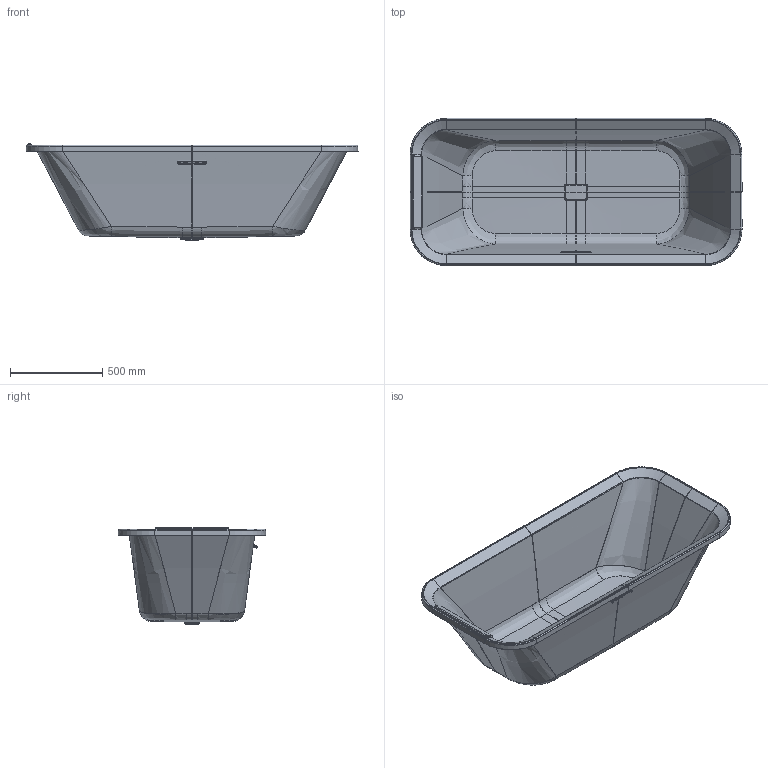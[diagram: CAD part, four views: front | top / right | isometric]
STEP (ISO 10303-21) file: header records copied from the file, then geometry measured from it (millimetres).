
FILE_DESCRIPTION(('STEP AP203'),'2;1');
FILE_NAME('DIV11898C.stp','2017-07-25T10:28:28',(''),(''),'2016.1.120','THINKDESIGN','');
FILE_SCHEMA(('CONFIG_CONTROL_DESIGN'));
Length unit declared in the file: millimetre
Products named in the file (1): top
Bounding box: 1799.12 x 799.12 x 525.6 mm (x, y, z)
Volume: 9053821.2 mm3; surface area: 5927437 mm2
Topology: 4 solids, 4 shells, 841 faces, 2228 edges, 1342 vertices
Faces by surface type: bspline 301, plane 284, cylinder 256
Entity records: 39763 total; most frequent: CARTESIAN_POINT 20928, ORIENTED_EDGE 4436, DIRECTION 3188, EDGE_CURVE 2218, VERTEX_POINT 1342, VECTOR 1166, LINE 1166, AXIS2_PLACEMENT_3D 1011
